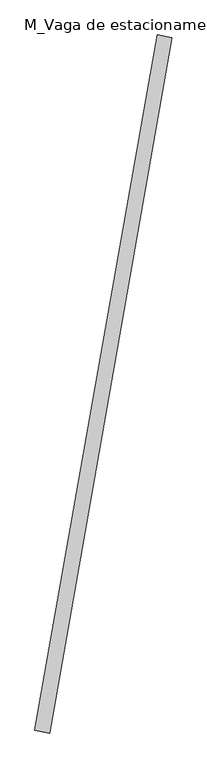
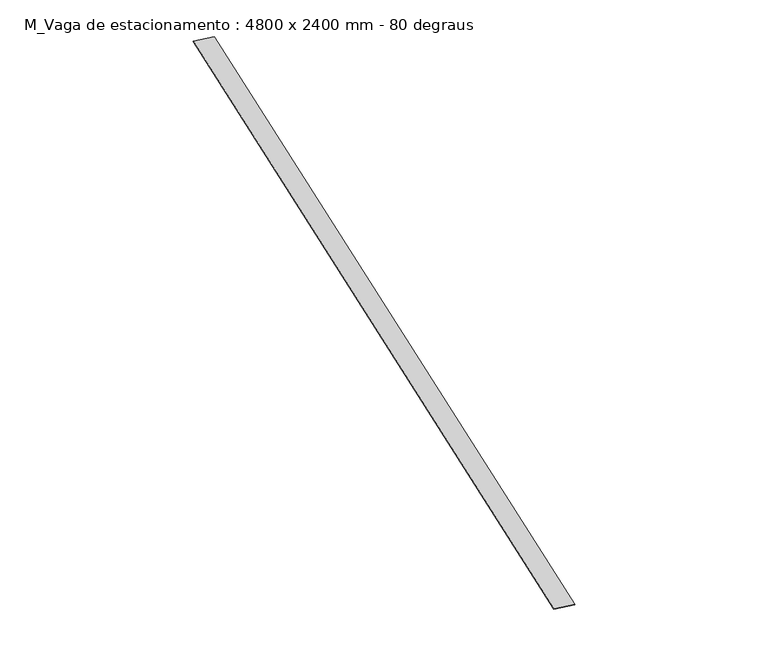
"""IFC4 building model written with IfcOpenShell, lengths in millimetres: proxy geometry, M_Vaga de estacionamento : 4800 x 2400 mm - 80 degraus."""

from ifc_helpers import new_model, si_unit, origin, origin_with_axes, place, context, project, spatial, polyline, outline, extrude, source, transform, mapped, element, save


def m_vaga_de_estacionamento_4800_x_2400_mm_80_degraus_9b4b83f7(model_context):
    return source(origin(), model_context, "Body", "SweptSolid", [
        extrude(outline(polyline([(-50.0282339, 8.8213274), (783.469404, 4735.8213274), (883.5258717, 4718.1786726), (50.0282339, -8.8213274), (-50.0282339, 8.8213274)])), origin_with_axes(), (0.0, 0.0, 1.0), 3.175),
    ])


if __name__ == "__main__":
    model = new_model("IFC4")
    model_context = context("Model", 3, world=origin())
    ifc_project = project(units=[si_unit("LENGTHUNIT", "METRE", prefix="MILLI")], contexts=[model_context])
    site = spatial("IfcSite", under=ifc_project)
    building = spatial("IfcBuilding", under=site)
    placement = place(None, origin())
    m_vaga_de_estacionamento_4800_x_2400_mm_80_degraus_shape = m_vaga_de_estacionamento_4800_x_2400_mm_80_degraus_9b4b83f7(model_context)
    element("IfcBuildingElementProxy", 1, Name="M_Vaga de estacionamento : 4800 x 2400 mm - 80 degraus", ObjectType="M_Vaga de estacionamento : 4800 x 2400 mm - 80 degraus", at=placement, inside=building, context=model_context, shape_type="MappedRepresentation", body=[
        mapped(m_vaga_de_estacionamento_4800_x_2400_mm_80_degraus_shape, transform((0.0, 0.0, 0.0), x_axis=(1.0, 0.0, 0.0), y_axis=(0.0, 1.0, 0.0), z_axis=(0.0, 0.0, 1.0))),
    ])
    save(model, "model.ifc")
